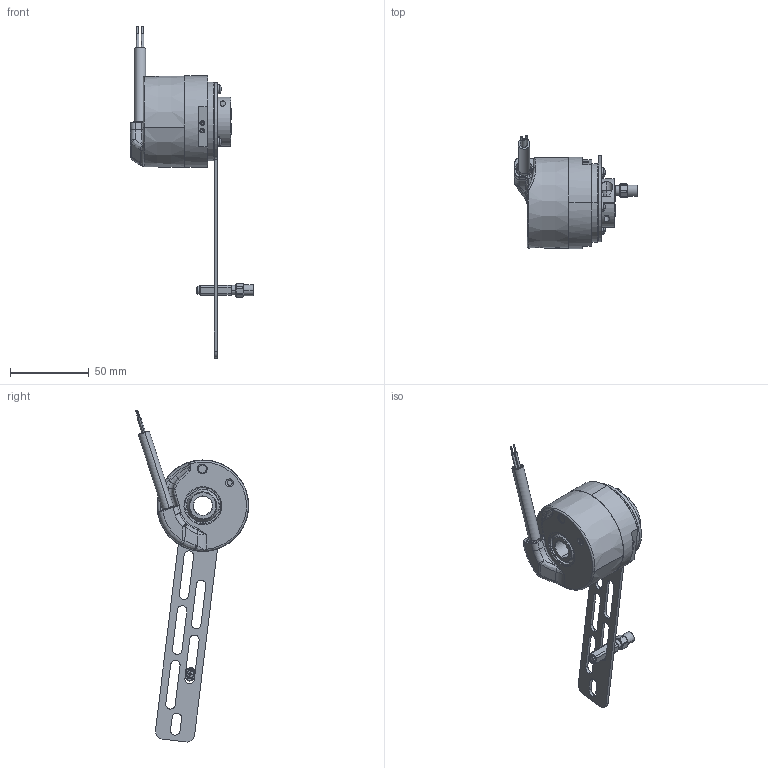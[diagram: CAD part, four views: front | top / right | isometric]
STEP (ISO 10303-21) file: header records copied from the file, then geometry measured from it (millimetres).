
FILE_DESCRIPTION (( 'STEP AP214' ), '1' );
FILE_NAME ('5834SIL.A4XE.XXXX.STEP', '2010-08-13T08:00:14', ( 'admin' ), ( 'Fritz Kübler GmbH' ), 'SwSTEP 2.0', 'SolidWorks 2009', '' );
FILE_SCHEMA (( 'AUTOMOTIVE_DESIGN' ));
Length unit declared in the file: millimetre
Products named in the file (1): 5834SIL.A4XE.XXXX
Bounding box: 78 x 71.81 x 210.53 mm (x, y, z)
Surface area: 33213.9 mm2 (no closed solid volume)
Topology: 0 solids, 29 shells, 387 faces, 1422 edges, 1060 vertices
Faces by surface type: cylinder 133, plane 122, cone 70, bspline 28, torus 19, sphere 15
Entity records: 24799 total; most frequent: CARTESIAN_POINT 8842, DIRECTION 2367, ORIENTED_EDGE 2211, EDGE_CURVE 1420, VERTEX_POINT 1060, AXIS2_PLACEMENT_3D 922, CIRCLE 562, VECTOR 523
